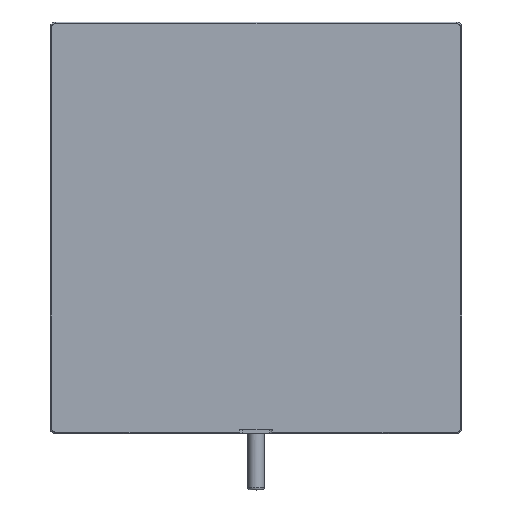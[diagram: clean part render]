
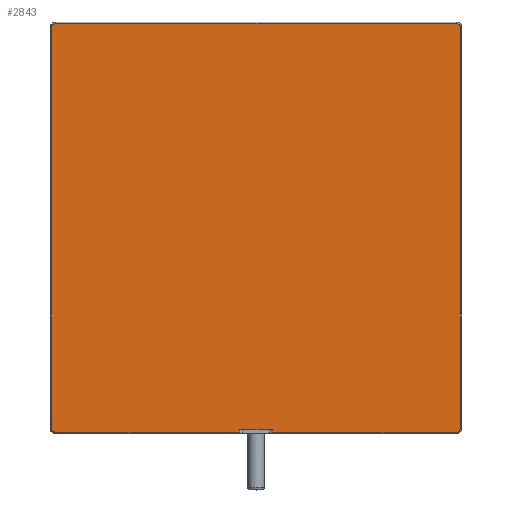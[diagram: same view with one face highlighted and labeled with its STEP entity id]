
A CAD part, left-side view. The second image highlights one B-rep face of the part: STEP entity #2843.
In plain terms, the highlighted planar face has unit normal (-1, 0, 0).
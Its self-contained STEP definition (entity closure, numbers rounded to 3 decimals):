
#606=DIRECTION('',(0.,0.,1.));
#607=VECTOR('',#606,145.974);
#608=CARTESIAN_POINT('',(-1.5,74.487,-72.987));
#609=LINE('',#608,#607);
#619=CARTESIAN_POINT('',(-1.5,74.487,72.987));
#620=CARTESIAN_POINT('',(-1.5,74.487,73.058));
#621=CARTESIAN_POINT('',(-1.5,74.477,73.199));
#622=CARTESIAN_POINT('',(-1.5,74.431,73.41));
#623=CARTESIAN_POINT('',(-1.5,74.356,73.612));
#624=CARTESIAN_POINT('',(-1.5,74.253,73.8));
#625=CARTESIAN_POINT('',(-1.5,74.124,73.973));
#626=CARTESIAN_POINT('',(-1.5,73.973,74.124));
#627=CARTESIAN_POINT('',(-1.5,73.8,74.253));
#628=CARTESIAN_POINT('',(-1.5,73.612,74.356));
#629=CARTESIAN_POINT('',(-1.5,73.41,74.431));
#630=CARTESIAN_POINT('',(-1.5,73.199,74.477));
#631=CARTESIAN_POINT('',(-1.5,73.058,74.487));
#632=CARTESIAN_POINT('',(-1.5,72.987,74.487));
#639=DIRECTION('',(0.,-1.,0.));
#640=VECTOR('',#639,145.974);
#641=CARTESIAN_POINT('',(-1.5,72.987,74.487));
#642=LINE('',#641,#640);
#652=CARTESIAN_POINT('',(-1.5,-72.987,74.487));
#653=CARTESIAN_POINT('',(-1.5,-73.058,74.487));
#654=CARTESIAN_POINT('',(-1.5,-73.199,74.477));
#655=CARTESIAN_POINT('',(-1.5,-73.41,74.431));
#656=CARTESIAN_POINT('',(-1.5,-73.612,74.356));
#657=CARTESIAN_POINT('',(-1.5,-73.8,74.253));
#658=CARTESIAN_POINT('',(-1.5,-73.973,74.124));
#659=CARTESIAN_POINT('',(-1.5,-74.124,73.973));
#660=CARTESIAN_POINT('',(-1.5,-74.253,73.8));
#661=CARTESIAN_POINT('',(-1.5,-74.356,73.612));
#662=CARTESIAN_POINT('',(-1.5,-74.431,73.41));
#663=CARTESIAN_POINT('',(-1.5,-74.477,73.199));
#664=CARTESIAN_POINT('',(-1.5,-74.487,73.058));
#665=CARTESIAN_POINT('',(-1.5,-74.487,72.987));
#672=DIRECTION('',(0.,0.,-1.));
#673=VECTOR('',#672,145.974);
#674=CARTESIAN_POINT('',(-1.5,-74.487,72.987));
#675=LINE('',#674,#673);
#685=CARTESIAN_POINT('',(-1.5,-74.487,
-72.987));
#686=CARTESIAN_POINT('',(-1.5,-74.487,
-73.058));
#687=CARTESIAN_POINT('',(-1.5,-74.477,
-73.199));
#688=CARTESIAN_POINT('',(-1.5,-74.431,
-73.41));
#689=CARTESIAN_POINT('',(-1.5,-74.356,-73.612));
#690=CARTESIAN_POINT('',(-1.5,-74.253,-73.8));
#691=CARTESIAN_POINT('',(-1.5,-74.124,-73.973));
#692=CARTESIAN_POINT('',(-1.5,-73.973,-74.124));
#693=CARTESIAN_POINT('',(-1.5,-73.8,-74.253));
#694=CARTESIAN_POINT('',(-1.5,-73.612,-74.356));
#695=CARTESIAN_POINT('',(-1.5,-73.41,-74.431));
#696=CARTESIAN_POINT('',(-1.5,-73.199,-74.477));
#697=CARTESIAN_POINT('',(-1.5,-73.058,
-74.487));
#698=CARTESIAN_POINT('',(-1.5,-72.987,
-74.487));
#714=DIRECTION('',(0.,1.,0.));
#715=VECTOR('',#714,66.987);
#716=CARTESIAN_POINT('',(-1.5,-72.987,
-74.487));
#717=LINE('',#716,#715);
#754=DIRECTION('',(0.,1.,0.));
#755=VECTOR('',#754,66.987);
#756=CARTESIAN_POINT('',(-1.5,6.,-74.487));
#757=LINE('',#756,#755);
#768=CARTESIAN_POINT('',(-1.5,6.,-74.487));
#774=DIRECTION('',(0.,-1.,0.));
#775=VECTOR('',#774,12.);
#776=CARTESIAN_POINT('',(-1.5,6.,-73.5));
#777=LINE('',#776,#775);
#778=DIRECTION('',(0.,0.,1.));
#779=VECTOR('',#778,0.987);
#780=CARTESIAN_POINT('',(-1.5,6.,-74.487));
#781=LINE('',#780,#779);
#786=DIRECTION('',(0.,0.,1.));
#787=VECTOR('',#786,0.987);
#788=CARTESIAN_POINT('',(-1.5,-6.,-74.487));
#789=LINE('',#788,#787);
#800=CARTESIAN_POINT('',(-1.5,-6.,-74.487));
#853=CARTESIAN_POINT('',(-1.5,72.987,-74.487));
#854=CARTESIAN_POINT('',(-1.5,73.058,-74.487));
#855=CARTESIAN_POINT('',(-1.5,73.199,-74.477));
#856=CARTESIAN_POINT('',(-1.5,73.41,-74.431));
#857=CARTESIAN_POINT('',(-1.5,73.612,-74.356));
#858=CARTESIAN_POINT('',(-1.5,73.8,-74.253));
#859=CARTESIAN_POINT('',(-1.5,73.973,-74.124));
#860=CARTESIAN_POINT('',(-1.5,74.124,-73.973));
#861=CARTESIAN_POINT('',(-1.5,74.253,-73.8));
#862=CARTESIAN_POINT('',(-1.5,74.356,-73.612));
#863=CARTESIAN_POINT('',(-1.5,74.431,-73.41));
#864=CARTESIAN_POINT('',(-1.5,74.477,-73.199));
#865=CARTESIAN_POINT('',(-1.5,74.487,-73.058));
#866=CARTESIAN_POINT('',(-1.5,74.487,-72.987));
#1489=VERTEX_POINT('',#768);
#1498=VERTEX_POINT('',#800);
#1499=CARTESIAN_POINT('',(-1.5,-72.987,
-74.487));
#1500=VERTEX_POINT('',#1499);
#1501=VERTEX_POINT('',#685);
#1502=CARTESIAN_POINT('',(-1.5,-74.487,
72.987));
#1503=VERTEX_POINT('',#1502);
#1504=VERTEX_POINT('',#652);
#1505=CARTESIAN_POINT('',(-1.5,72.987,74.487));
#1506=VERTEX_POINT('',#1505);
#1507=VERTEX_POINT('',#619);
#1508=CARTESIAN_POINT('',(-1.5,74.487,
-72.987));
#1509=VERTEX_POINT('',#1508);
#1510=VERTEX_POINT('',#853);
#1566=CARTESIAN_POINT('',(-1.5,6.,-73.5));
#1568=VERTEX_POINT('',#1566);
#1576=CARTESIAN_POINT('',(-1.5,-6.,-73.5));
#1577=VERTEX_POINT('',#1576);
#2820=CARTESIAN_POINT('',(-1.5,0.,0.));
#2821=DIRECTION('',(1.,0.,0.));
#2822=DIRECTION('',(0.,1.,0.));
#2823=AXIS2_PLACEMENT_3D('',#2820,#2821,#2822);
#2824=PLANE('',#2823);
#2826=ORIENTED_EDGE('',*,*,#2825,.T.);
#2828=ORIENTED_EDGE('',*,*,#2827,.F.);
#2830=ORIENTED_EDGE('',*,*,#2829,.F.);
#2831=ORIENTED_EDGE('',*,*,#2810,.T.);
#2833=ORIENTED_EDGE('',*,*,#2832,.T.);
#2834=ORIENTED_EDGE('',*,*,#2544,.T.);
#2835=ORIENTED_EDGE('',*,*,#2604,.T.);
#2836=ORIENTED_EDGE('',*,*,#2618,.T.);
#2837=ORIENTED_EDGE('',*,*,#2677,.T.);
#2838=ORIENTED_EDGE('',*,*,#2692,.T.);
#2839=ORIENTED_EDGE('',*,*,#2752,.T.);
#2840=ORIENTED_EDGE('',*,*,#2771,.T.);
#2841=EDGE_LOOP('',(#2826,#2828,#2830,#2831,#2833,#2834,#2835,#2836,#2837,#2838,
#2839,#2840));
#2842=FACE_OUTER_BOUND('',#2841,.F.);
#2843=ADVANCED_FACE('',(#2842),#2824,.F.);
#633=B_SPLINE_CURVE_WITH_KNOTS('',3,(#619,#620,#621,#622,#623,#624,#625,#626,
#627,#628,#629,#630,#631,#632),.UNSPECIFIED.,.F.,.F.,(4,1,1,1,1,1,1,1,1,1,1,4),(
0.,0.091,0.182,0.273,0.364,
0.455,0.545,0.636,0.727,
0.818,0.909,1.),.UNSPECIFIED.);
#666=B_SPLINE_CURVE_WITH_KNOTS('',3,(#652,#653,#654,#655,#656,#657,#658,#659,
#660,#661,#662,#663,#664,#665),.UNSPECIFIED.,.F.,.F.,(4,1,1,1,1,1,1,1,1,1,1,4),(
0.,0.091,0.182,0.273,0.364,
0.455,0.545,0.636,0.727,
0.818,0.909,1.),.UNSPECIFIED.);
#699=B_SPLINE_CURVE_WITH_KNOTS('',3,(#685,#686,#687,#688,#689,#690,#691,#692,
#693,#694,#695,#696,#697,#698),.UNSPECIFIED.,.F.,.F.,(4,1,1,1,1,1,1,1,1,1,1,4),(
0.,0.091,0.182,0.273,0.364,
0.455,0.545,0.636,0.727,
0.818,0.909,1.),.UNSPECIFIED.);
#867=B_SPLINE_CURVE_WITH_KNOTS('',3,(#853,#854,#855,#856,#857,#858,#859,#860,
#861,#862,#863,#864,#865,#866),.UNSPECIFIED.,.F.,.F.,(4,1,1,1,1,1,1,1,1,1,1,4),(
0.,0.091,0.182,0.273,0.364,
0.455,0.545,0.636,0.727,
0.818,0.909,1.),.UNSPECIFIED.);
#2544=EDGE_CURVE('',#1509,#1507,#609,.T.);
#2604=EDGE_CURVE('',#1507,#1506,#633,.T.);
#2618=EDGE_CURVE('',#1506,#1504,#642,.T.);
#2677=EDGE_CURVE('',#1504,#1503,#666,.T.);
#2692=EDGE_CURVE('',#1503,#1501,#675,.T.);
#2752=EDGE_CURVE('',#1501,#1500,#699,.T.);
#2771=EDGE_CURVE('',#1500,#1498,#717,.T.);
#2810=EDGE_CURVE('',#1489,#1510,#757,.T.);
#2825=EDGE_CURVE('',#1498,#1577,#789,.T.);
#2827=EDGE_CURVE('',#1568,#1577,#777,.T.);
#2829=EDGE_CURVE('',#1489,#1568,#781,.T.);
#2832=EDGE_CURVE('',#1510,#1509,#867,.T.);
